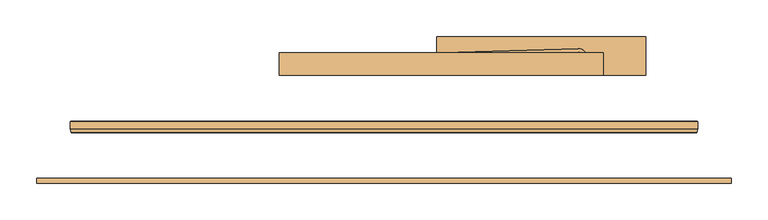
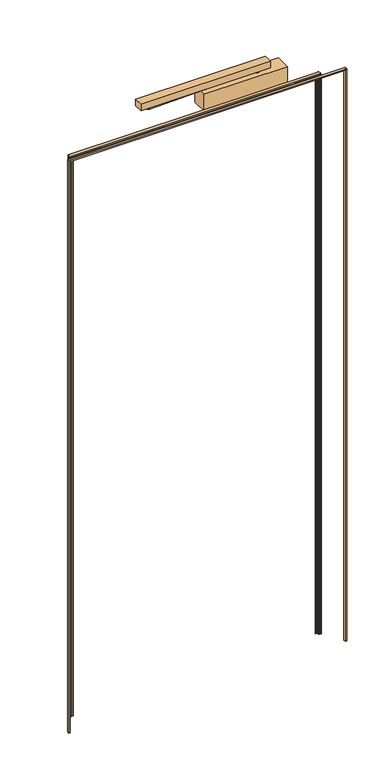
"""IFC4 building model written with IfcOpenShell, lengths in millimetres: door geometry."""

from ifc_helpers import new_model, si_unit, point, frame, frame_2d, origin, place, context, project, spatial, polyline, circle_curve, ellipse_curve, trimmed, segment, composite_curve, outline, extrude, source, transform, mapped, element, save
from ifc_brep_helpers import plane_surface, cylinder_surface, revolved_surface, advanced_brep


def door_c648f8eb(model_context):
    return source(origin(), model_context, "Body", "SolidModel", [
        extrude(outline(composite_curve([segment(polyline([(-110.2924281, 163.4957234), (265.7075719, 174.4957234)]), True, "CONTINUOUS"), segment(trimmed(circle_curve(frame_2d((266.0, 164.5)), 10.0), [point((265.7075719, 174.4957234))], [point((266.2924281, 154.5042766))], False, "CARTESIAN"), True, "CONTINUOUS"), segment(polyline([(266.2924281, 154.5042766), (-109.7075719, 143.5042766)]), True, "CONTINUOUS"), segment(trimmed(circle_curve(frame_2d((-110.0, 153.5)), 10.0), [point((-109.7075719, 143.5042766))], [point((-110.2924281, 163.4957234))], False, "CARTESIAN"), True, "CONTINUOUS")], self_intersect=False)), frame((0.0, 0.0, 2027.0), z_axis=(0.0, 0.0, 1.0), x_axis=(1.0, 0.0, 0.0)), (0.0, 0.0, 1.0), 5.0),
        advanced_brep(
        [(-120.0, 153.5, 2036.0), (-100.0, 153.5, 2036.0), (-110.0, 153.5, 2036.0), (-120.0, 153.5, 2032.0), (-100.0, 153.5, 2032.0), (-110.0, 153.5, 2032.0)],
        [
            (0, 1, circle_curve(frame((-110.0, 153.5, 2036.0), z_axis=(0.0, 0.0, 1.0), x_axis=(1.0, 0.0, 0.0)), 10.0)),
            (1, 2),
            (2, 0),
            (1, 0, circle_curve(frame((-110.0, 153.5, 2036.0), z_axis=(0.0, 0.0, 1.0), x_axis=(1.0, 0.0, 0.0)), 10.0)),
            (3, 4, circle_curve(frame((-110.0, 153.5, 2032.0), z_axis=(0.0, 0.0, 1.0), x_axis=(1.0, 0.0, 0.0)), 10.0)),
            (4, 1),
            (0, 3),
            (4, 3, circle_curve(frame((-110.0, 153.5, 2032.0), z_axis=(0.0, 0.0, 1.0), x_axis=(1.0, 0.0, 0.0)), 10.0)),
            (5, 4),
            (3, 5),
        ],
        [
            plane_surface(frame((-110.0, 153.5, 2036.0), z_axis=(0.0, 0.0, 1.0), x_axis=(1.0, 0.0, 0.0))),
            cylinder_surface(frame((-110.0, 153.5, 2054.0), z_axis=(0.0, 0.0, -1.0), x_axis=(1.0, 0.0, 0.0)), 10.0),
            plane_surface(frame((-110.0, 153.5, 2032.0), z_axis=(0.0, 0.0, -1.0), x_axis=(1.0, 0.0, 0.0))),
        ],
        [
            (0, [[1, 2, 3]]),
            (0, [[4, -3, -2]]),
            (1, [[5, 6, -1, 7]]),
            (1, [[8, -7, -4, -6]]),
            (2, [[9, -5, 10]]),
            (2, [[-10, -8, -9]]),
        ],
    ),
        advanced_brep(
        [(-115.0, 153.5, 2027.0), (-105.0, 153.5, 2027.0), (-110.0, 153.5, 2027.0), (-115.0, 153.5, 2025.0), (-105.0, 153.5, 2025.0), (-110.0, 153.5, 2025.0)],
        [
            (0, 1, circle_curve(frame((-110.0, 153.5, 2027.0), z_axis=(0.0, 0.0, 1.0), x_axis=(1.0, 0.0, 0.0)), 5.0)),
            (1, 2),
            (2, 0),
            (1, 0, circle_curve(frame((-110.0, 153.5, 2027.0), z_axis=(0.0, 0.0, 1.0), x_axis=(1.0, 0.0, 0.0)), 5.0)),
            (3, 4, circle_curve(frame((-110.0, 153.5, 2025.0), z_axis=(0.0, 0.0, 1.0), x_axis=(1.0, 0.0, 0.0)), 5.0)),
            (4, 1),
            (0, 3),
            (4, 3, circle_curve(frame((-110.0, 153.5, 2025.0), z_axis=(0.0, 0.0, 1.0), x_axis=(1.0, 0.0, 0.0)), 5.0)),
            (5, 4),
            (3, 5),
        ],
        [
            plane_surface(frame((-110.0, 153.5, 2027.0), z_axis=(0.0, 0.0, 1.0), x_axis=(1.0, 0.0, 0.0))),
            cylinder_surface(frame((-110.0, 153.5, 2054.0), z_axis=(0.0, 0.0, -1.0), x_axis=(1.0, 0.0, 0.0)), 5.0),
            plane_surface(frame((-110.0, 153.5, 2025.0), z_axis=(0.0, 0.0, -1.0), x_axis=(1.0, 0.0, 0.0))),
        ],
        [
            (0, [[1, 2, 3]]),
            (0, [[4, -3, -2]]),
            (1, [[5, 6, -1, 7]]),
            (1, [[8, -7, -4, -6]]),
            (2, [[9, -5, 10]]),
            (2, [[-10, -8, -9]]),
        ],
    ),
        advanced_brep(
        [(266.0, 164.5, 2032.0), (271.0, 164.5, 2032.0), (261.0, 164.5, 2032.0), (261.0, 164.5, 2034.0), (271.0, 164.5, 2034.0), (266.0, 164.5, 2034.0)],
        [
            (0, 1),
            (1, 2, circle_curve(frame((266.0, 164.5, 2032.0), z_axis=(0.0, 0.0, -1.0), x_axis=(1.0, 0.0, 0.0)), 5.0)),
            (2, 0),
            (2, 1, circle_curve(frame((266.0, 164.5, 2032.0), z_axis=(0.0, 0.0, -1.0), x_axis=(1.0, 0.0, 0.0)), 5.0)),
            (3, 4, circle_curve(frame((266.0, 164.5, 2034.0), z_axis=(0.0, 0.0, 1.0), x_axis=(1.0, 0.0, 0.0)), 5.0)),
            (4, 5),
            (5, 3),
            (4, 3, circle_curve(frame((266.0, 164.5, 2034.0), z_axis=(0.0, 0.0, 1.0), x_axis=(1.0, 0.0, 0.0)), 5.0)),
            (1, 4),
            (3, 2),
        ],
        [
            plane_surface(frame((266.0, 164.5, 2032.0), z_axis=(0.0, 0.0, -1.0), x_axis=(1.0, 0.0, 0.0))),
            plane_surface(frame((266.0, 164.5, 2034.0), z_axis=(0.0, 0.0, 1.0), x_axis=(1.0, 0.0, 0.0))),
            cylinder_surface(frame((266.0, 164.5, 2047.8284376), z_axis=(0.0, 0.0, -1.0), x_axis=(1.0, 0.0, 0.0)), 5.0),
        ],
        [
            (0, [[1, 2, 3]]),
            (0, [[-3, 4, -1]]),
            (1, [[5, 6, 7]]),
            (1, [[8, -7, -6]]),
            (2, [[-2, 9, -5, 10]]),
            (2, [[-4, -10, -8, -9]]),
        ],
    ),
        advanced_brep(
        [(256.0, 164.5, 2020.0), (276.0, 164.5, 2020.0), (276.0, 164.5, 2027.0), (256.0, 164.5, 2027.0), (266.0, 164.5, 2020.0), (266.0, 164.5, 2027.0)],
        [
            (0, 1, circle_curve(frame((266.0, 164.5, 2020.0), z_axis=(0.0, 0.0, 1.0), x_axis=(1.0, 0.0, 0.0)), 10.0)),
            (1, 2),
            (2, 3, circle_curve(frame((266.0, 164.5, 2027.0), z_axis=(0.0, 0.0, -1.0), x_axis=(1.0, 0.0, 0.0)), 10.0)),
            (3, 0),
            (1, 0, circle_curve(frame((266.0, 164.5, 2020.0), z_axis=(0.0, 0.0, 1.0), x_axis=(1.0, 0.0, 0.0)), 10.0)),
            (3, 2, circle_curve(frame((266.0, 164.5, 2027.0), z_axis=(0.0, 0.0, -1.0), x_axis=(1.0, 0.0, 0.0)), 10.0)),
            (4, 1),
            (0, 4),
            (2, 5),
            (5, 3),
        ],
        [
            cylinder_surface(frame((266.0, 164.5, 2047.8284376), z_axis=(0.0, 0.0, -1.0), x_axis=(1.0, 0.0, 0.0)), 10.0),
            plane_surface(frame((266.0, 164.5, 2020.0), z_axis=(0.0, 0.0, -1.0), x_axis=(1.0, 0.0, 0.0))),
            plane_surface(frame((266.0, 164.5, 2027.0), z_axis=(0.0, 0.0, 1.0), x_axis=(1.0, 0.0, 0.0))),
        ],
        [
            (0, [[1, 2, 3, 4]]),
            (0, [[5, -4, 6, -2]]),
            (1, [[7, -1, 8]]),
            (1, [[-8, -5, -7]]),
            (2, [[-3, 9, 10]]),
            (2, [[-6, -10, -9]]),
        ],
    ),
        extrude(outline(polyline([(72.0, 191.0), (357.0, 191.0), (357.0, 138.0), (72.0, 138.0), (72.0, 191.0)])), frame((0.0, 0.0, 1960.0), z_axis=(0.0, 0.0, 1.0), x_axis=(1.0, 0.0, 0.0)), (0.0, 0.0, 1.0), 60.0),
        extrude(outline(polyline([(-143.0, 169.0), (299.0, 169.0), (299.0, 138.0), (-143.0, 138.0), (-143.0, 169.0)])), frame((0.0, 0.0, 2036.0), z_axis=(0.0, 0.0, 1.0), x_axis=(1.0, 0.0, 0.0)), (0.0, 0.0, 1.0), 23.0),
        advanced_brep(
        [(-417.5333333, 70.1996732, 0.0), (-418.4, 67.990098, 0.0), (-418.4, 61.80189, 0.0), (-419.0235102, 61.4701624, 0.0), (-423.7571616, 62.7993824, 0.0), (-425.9513805, 60.3111942, 0.0), (-426.6913103, 60.1883555, 0.0), (-428.0, 65.3343682, 0.0), (-428.0, 74.5479523, 0.0), (-426.9858543, 75.5478522, 0.0), (-421.2510105, 74.9191862, 0.0), (-414.8397079, 72.8273335, 0.0), (-413.3594274, 69.4757259, 0.0), (-413.8666667, 70.1996732, 0.0), (-417.5333333, 70.1996732, 2004.5333333), (-418.4, 67.990098, 2005.4), (-418.4, 61.80189, 2005.4), (-419.0235102, 61.4701624, 2006.0235102), (-423.7571616, 62.7993824, 2010.7571616), (-425.9513805, 60.3111942, 2012.9513805), (-426.6913103, 60.1883555, 2013.6913103), (-428.0, 65.3343682, 2015.0), (-428.0, 74.5479523, 2015.0), (-426.9858543, 75.5478522, 2013.9858543), (-421.2510105, 74.9191862, 2008.2510105), (-414.8397079, 72.8273335, 2001.8397079), (-413.3594274, 69.4757259, 2000.3594274), (-413.8666667, 70.1996732, 2000.8666667), (417.5333333, 70.1996732, 0.0), (413.8666667, 70.1996732, 0.0), (413.3594274, 69.4757259, 0.0), (414.8397079, 72.8273335, 0.0), (421.2510105, 74.9191862, 0.0), (426.9858543, 75.5478522, 0.0), (428.0, 74.5479523, 0.0), (428.0, 65.3343682, 0.0), (426.6913103, 60.1883555, 0.0), (425.9513805, 60.3111942, 0.0), (423.7571616, 62.7993824, 0.0), (419.0235102, 61.4701624, 0.0), (418.4, 61.80189, 0.0), (418.4, 67.990098, 0.0), (417.5333333, 70.1996732, 2004.5333333), (413.8666667, 70.1996732, 2000.8666667), (413.3594274, 69.4757259, 2000.3594274), (414.8397079, 72.8273335, 2001.8397079), (421.2510105, 74.9191862, 2008.2510105), (426.9858543, 75.5478522, 2013.9858543), (428.0, 74.5479523, 2015.0), (428.0, 65.3343682, 2015.0), (426.6913103, 60.1883555, 2013.6913103), (425.9513805, 60.3111942, 2012.9513805), (423.7571616, 62.7993824, 2010.7571616), (419.0235102, 61.4701624, 2006.0235102), (418.4, 61.80189, 2005.4), (418.4, 67.990098, 2005.4)],
        [
            (0, 1, circle_curve(frame((-415.15, 67.990098, 0.0), z_axis=(0.0, 0.0, 1.0), x_axis=(-1.0, 0.0, 0.0)), 3.25)),
            (1, 2),
            (2, 3, circle_curve(frame((-418.8, 61.80189, 0.0), z_axis=(0.0, 0.0, -1.0), x_axis=(-1.0, 0.0, 0.0)), 0.4)),
            (3, 4, circle_curve(frame((-423.4015438, 54.9724089, 0.0), z_axis=(0.0, 0.0, 1.0), x_axis=(-1.0, 0.0, 0.0)), 7.8350481)),
            (4, 5, circle_curve(frame((-423.6524844, 60.4954879, 0.0), z_axis=(0.0, 0.0, 1.0), x_axis=(-1.0, 0.0, 0.0)), 2.3062713)),
            (5, 6, circle_curve(frame((-426.3265489, 60.2811184, 0.0), z_axis=(0.0, 0.0, -1.0), x_axis=(-1.0, 0.0, 0.0)), 0.376372)),
            (6, 7),
            (7, 8),
            (8, 9, circle_curve(frame((-427.0, 74.5479523, 0.0), z_axis=(0.0, 0.0, -1.0), x_axis=(-1.0, 0.0, 0.0)), 1.0)),
            (9, 10, circle_curve(frame((-427.4158432, 45.1537382, 0.0), z_axis=(0.0, 0.0, -1.0), x_axis=(-1.0, 0.0, 0.0)), 30.3971554)),
            (10, 11, circle_curve(frame((-427.4158432, 45.1537382, 0.0), z_axis=(0.0, 0.0, -1.0), x_axis=(-1.0, 0.0, 0.0)), 30.3971554)),
            (11, 12, circle_curve(frame((-415.9783656, 70.3217345, 0.0), z_axis=(0.0, 0.0, -1.0), x_axis=(-1.0, 0.0, 0.0)), 2.7521932)),
            (12, 13, circle_curve(frame((-416.25, 67.990098, 0.0), z_axis=(0.0, 0.0, 1.0), x_axis=(-1.0, 0.0, 0.0)), 3.25)),
            (13, 0, circle_curve(frame((-415.7, 68.5, 0.0), z_axis=(0.0, 0.0, 1.0), x_axis=(-1.0, 0.0, 0.0)), 2.5)),
            (0, 14),
            (14, 15, ellipse_curve(frame((-415.15, 67.990098, 2002.15), z_axis=(0.7071067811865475, 0.0, 0.7071067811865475), x_axis=(-0.7071067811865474, 0.0, 0.7071067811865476)), 4.5961941, 3.25)),
            (15, 1),
            (15, 16),
            (16, 2),
            (16, 17, ellipse_curve(frame((-418.8, 61.80189, 2005.8), z_axis=(-0.7071067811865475, 0.0, -0.7071067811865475), x_axis=(0.7071067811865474, 0.0, -0.7071067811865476)), 0.5656854, 0.4)),
            (17, 3),
            (17, 18, ellipse_curve(frame((-423.4015438, 54.9724089, 2010.4015438), z_axis=(0.7071067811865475, 0.0, 0.7071067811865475), x_axis=(-0.7071067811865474, 0.0, 0.7071067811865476)), 11.0804313, 7.8350481)),
            (18, 4),
            (18, 19, ellipse_curve(frame((-423.6524844, 60.4954879, 2010.6524844), z_axis=(0.7071067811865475, 0.0, 0.7071067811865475), x_axis=(-0.7071067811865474, 0.0, 0.7071067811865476)), 3.2615602, 2.3062713)),
            (19, 5),
            (19, 20, ellipse_curve(frame((-426.3265489, 60.2811184, 2013.3265489), z_axis=(-0.7071067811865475, 0.0, -0.7071067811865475), x_axis=(0.7071067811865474, 0.0, -0.7071067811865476)), 0.5322704, 0.376372)),
            (20, 6),
            (20, 21),
            (21, 7),
            (21, 22),
            (22, 8),
            (22, 23, ellipse_curve(frame((-427.0, 74.5479523, 2014.0), z_axis=(-0.7071067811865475, 0.0, -0.7071067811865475), x_axis=(0.7071067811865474, 0.0, -0.7071067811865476)), 1.4142136, 1.0)),
            (23, 9),
            (23, 24, ellipse_curve(frame((-427.4158432, 45.1537382, 2014.4158432), z_axis=(-0.7071067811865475, 0.0, -0.7071067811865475), x_axis=(0.7071067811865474, 0.0, -0.7071067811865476)), 42.9880694, 30.3971554)),
            (24, 10),
            (24, 25, ellipse_curve(frame((-427.4158432, 45.1537382, 2014.4158432), z_axis=(-0.7071067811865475, 0.0, -0.7071067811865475), x_axis=(0.7071067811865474, 0.0, -0.7071067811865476)), 42.9880694, 30.3971554)),
            (25, 11),
            (25, 26, ellipse_curve(frame((-415.9783656, 70.3217345, 2002.9783656), z_axis=(-0.7071067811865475, 0.0, -0.7071067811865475), x_axis=(0.7071067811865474, 0.0, -0.7071067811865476)), 3.892189, 2.7521932)),
            (26, 12),
            (26, 27, ellipse_curve(frame((-416.25, 67.990098, 2003.25), z_axis=(0.7071067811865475, 0.0, 0.7071067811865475), x_axis=(-0.7071067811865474, 0.0, 0.7071067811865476)), 4.5961941, 3.25)),
            (27, 13),
            (27, 14, ellipse_curve(frame((-415.7, 68.5, 2002.7), z_axis=(0.7071067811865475, 0.0, 0.7071067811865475), x_axis=(-0.7071067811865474, 0.0, 0.7071067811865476)), 3.5355339, 2.5)),
            (28, 29, circle_curve(frame((415.7, 68.5, 0.0), z_axis=(0.0, 0.0, 1.0), x_axis=(1.0, 0.0, 0.0)), 2.5)),
            (29, 30, circle_curve(frame((416.25, 67.990098, 0.0), z_axis=(0.0, 0.0, 1.0), x_axis=(1.0, 0.0, 0.0)), 3.25)),
            (30, 31, circle_curve(frame((415.9783656, 70.3217345, 0.0), z_axis=(0.0, 0.0, -1.0), x_axis=(1.0, 0.0, 0.0)), 2.7521932)),
            (31, 32, circle_curve(frame((427.4158432, 45.1537382, 0.0), z_axis=(0.0, 0.0, -1.0), x_axis=(1.0, 0.0, 0.0)), 30.3971554)),
            (32, 33, circle_curve(frame((427.4158432, 45.1537382, 0.0), z_axis=(0.0, 0.0, -1.0), x_axis=(1.0, 0.0, 0.0)), 30.3971554)),
            (33, 34, circle_curve(frame((427.0, 74.5479523, 0.0), z_axis=(0.0, 0.0, -1.0), x_axis=(1.0, 0.0, 0.0)), 1.0)),
            (34, 35),
            (35, 36),
            (36, 37, circle_curve(frame((426.3265489, 60.2811184, 0.0), z_axis=(0.0, 0.0, -1.0), x_axis=(1.0, 0.0, 0.0)), 0.376372)),
            (37, 38, circle_curve(frame((423.6524844, 60.4954879, 0.0), z_axis=(0.0, 0.0, 1.0), x_axis=(1.0, 0.0, 0.0)), 2.3062713)),
            (38, 39, circle_curve(frame((423.4015438, 54.9724089, 0.0), z_axis=(0.0, 0.0, 1.0), x_axis=(1.0, 0.0, 0.0)), 7.8350481)),
            (39, 40, circle_curve(frame((418.8, 61.80189, 0.0), z_axis=(0.0, 0.0, -1.0), x_axis=(1.0, 0.0, 0.0)), 0.4)),
            (40, 41),
            (41, 28, circle_curve(frame((415.15, 67.990098, 0.0), z_axis=(0.0, 0.0, 1.0), x_axis=(1.0, 0.0, 0.0)), 3.25)),
            (42, 43, ellipse_curve(frame((415.7, 68.5, 2002.7), z_axis=(-0.7071067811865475, 0.0, 0.7071067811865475), x_axis=(-0.7071067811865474, 0.0, -0.7071067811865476)), 3.5355339, 2.5)),
            (43, 29),
            (28, 42),
            (43, 44, ellipse_curve(frame((416.25, 67.990098, 2003.25), z_axis=(-0.7071067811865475, 0.0, 0.7071067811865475), x_axis=(-0.7071067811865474, 0.0, -0.7071067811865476)), 4.5961941, 3.25)),
            (44, 30),
            (44, 45, ellipse_curve(frame((415.9783656, 70.3217345, 2002.9783656), z_axis=(0.7071067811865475, 0.0, -0.7071067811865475), x_axis=(0.7071067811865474, 0.0, 0.7071067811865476)), 3.892189, 2.7521932)),
            (45, 31),
            (45, 46, ellipse_curve(frame((427.4158432, 45.1537382, 2014.4158432), z_axis=(0.7071067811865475, 0.0, -0.7071067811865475), x_axis=(0.7071067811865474, 0.0, 0.7071067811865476)), 42.9880694, 30.3971554)),
            (46, 32),
            (46, 47, ellipse_curve(frame((427.4158432, 45.1537382, 2014.4158432), z_axis=(0.7071067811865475, 0.0, -0.7071067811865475), x_axis=(0.7071067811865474, 0.0, 0.7071067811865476)), 42.9880694, 30.3971554)),
            (47, 33),
            (47, 48, ellipse_curve(frame((427.0, 74.5479523, 2014.0), z_axis=(0.7071067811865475, 0.0, -0.7071067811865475), x_axis=(0.7071067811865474, 0.0, 0.7071067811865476)), 1.4142136, 1.0)),
            (48, 34),
            (48, 49),
            (49, 35),
            (49, 50),
            (50, 36),
            (50, 51, ellipse_curve(frame((426.3265489, 60.2811184, 2013.3265489), z_axis=(0.7071067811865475, 0.0, -0.7071067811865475), x_axis=(0.7071067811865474, 0.0, 0.7071067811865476)), 0.5322704, 0.376372)),
            (51, 37),
            (51, 52, ellipse_curve(frame((423.6524844, 60.4954879, 2010.6524844), z_axis=(-0.7071067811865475, 0.0, 0.7071067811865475), x_axis=(-0.7071067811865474, 0.0, -0.7071067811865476)), 3.2615602, 2.3062713)),
            (52, 38),
            (52, 53, ellipse_curve(frame((423.4015438, 54.9724089, 2010.4015438), z_axis=(-0.7071067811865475, 0.0, 0.7071067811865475), x_axis=(-0.7071067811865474, 0.0, -0.7071067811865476)), 11.0804313, 7.8350481)),
            (53, 39),
            (53, 54, ellipse_curve(frame((418.8, 61.80189, 2005.8), z_axis=(0.7071067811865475, 0.0, -0.7071067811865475), x_axis=(0.7071067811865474, 0.0, 0.7071067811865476)), 0.5656854, 0.4)),
            (54, 40),
            (54, 55),
            (55, 41),
            (55, 42, ellipse_curve(frame((415.15, 67.990098, 2002.15), z_axis=(-0.7071067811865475, 0.0, 0.7071067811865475), x_axis=(-0.7071067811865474, 0.0, -0.7071067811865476)), 4.5961941, 3.25)),
            (26, 44),
            (43, 27),
            (42, 14),
            (55, 15),
            (54, 16),
            (21, 49),
            (48, 22),
            (53, 17),
            (52, 18),
            (51, 19),
            (50, 20),
            (47, 23),
            (46, 24),
            (45, 25),
        ],
        [
            plane_surface(frame((-474.0, 125.0, 0.0), z_axis=(0.0, 0.0, -1.0), x_axis=(0.0, 1.0, 0.0))),
            revolved_surface(polyline([(-418.4, 67.990098, 2005.4000000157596), (-418.4, 67.990098, 0.0)]), (-415.15, 67.990098, 0.0), (0.0, 0.0, 1.0)),
            plane_surface(frame((-418.4, 67.990098, 0.0), z_axis=(1.0, 0.0, 0.0), x_axis=(0.0, 0.0, 1.0))),
            cylinder_surface(frame((-418.8, 61.80189, 0.0), z_axis=(0.0, 0.0, -1.0), x_axis=(-1.0, 0.0, 0.0)), 0.4),
            revolved_surface(polyline([(-431.2365919, 54.9724089, 2018.2365919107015), (-431.2365919, 54.9724089, 0.0)]), (-423.4015438, 54.9724089, 0.0), (0.0, 0.0, 1.0)),
            revolved_surface(polyline([(-425.9587557, 60.4954879, 2012.958755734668), (-425.9587557, 60.4954879, 0.0)]), (-423.6524844, 60.4954879, 0.0), (0.0, 0.0, 1.0)),
            cylinder_surface(frame((-426.3265489, 60.2811184, 0.0), z_axis=(0.0, 0.0, -1.0), x_axis=(-1.0, 0.0, 0.0)), 0.376372),
            plane_surface(frame((-426.6913103, 60.1883555, 0.0), z_axis=(-0.9691513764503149, -0.2464662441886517, 0.0), x_axis=(0.0, 0.0, 1.0))),
            plane_surface(frame((-428.0, 65.3343682, 0.0), z_axis=(-1.0, 0.0, 0.0), x_axis=(0.0, 0.0, 1.0))),
            cylinder_surface(frame((-427.0, 74.5479523, 0.0), z_axis=(0.0, 0.0, -1.0), x_axis=(-1.0, 0.0, 0.0)), 1.0),
            cylinder_surface(frame((-427.4158432, 45.1537382, 0.0), z_axis=(0.0, 0.0, -1.0), x_axis=(-1.0, 0.0, 0.0)), 30.3971554),
            cylinder_surface(frame((-415.9783656, 70.3217345, 0.0), z_axis=(0.0, 0.0, -1.0), x_axis=(-1.0, 0.0, 0.0)), 2.7521932),
            revolved_surface(polyline([(-419.5, 67.990098, 2006.5000000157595), (-419.5, 67.990098, 0.0)]), (-416.25, 67.990098, 0.0), (0.0, 0.0, 1.0)),
            revolved_surface(polyline([(-418.2, 68.5, 2005.199999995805), (-418.2, 68.5, 0.0)]), (-415.7, 68.5, 0.0), (0.0, 0.0, 1.0)),
            plane_surface(frame((474.0, 125.0, 0.0), z_axis=(0.0, 0.0, -1.0), x_axis=(0.0, 1.0, 0.0))),
            revolved_surface(polyline([(418.2, 68.5, 0.0), (418.2, 68.5, 2005.199999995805)]), (415.7, 68.5, 2061.0), (0.0, 0.0, -1.0)),
            revolved_surface(polyline([(419.5, 67.990098, 0.0), (419.5, 67.990098, 2006.5000000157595)]), (416.25, 67.990098, 2061.0), (0.0, 0.0, -1.0)),
            cylinder_surface(frame((415.9783656, 70.3217345, 2061.0), z_axis=(0.0, 0.0, 1.0), x_axis=(1.0, 0.0, 0.0)), 2.7521932),
            cylinder_surface(frame((427.4158432, 45.1537382, 2061.0), z_axis=(0.0, 0.0, 1.0), x_axis=(1.0, 0.0, 0.0)), 30.3971554),
            cylinder_surface(frame((427.0, 74.5479523, 2061.0), z_axis=(0.0, 0.0, 1.0), x_axis=(1.0, 0.0, 0.0)), 1.0),
            plane_surface(frame((428.0, 65.3343682, 2015.0), z_axis=(1.0, 0.0, 0.0), x_axis=(0.0, 0.0, -1.0))),
            plane_surface(frame((426.6913103, 60.1883555, 2013.6913103), z_axis=(0.9691513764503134, -0.2464662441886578, 0.0), x_axis=(0.0, 0.0, -1.0))),
            cylinder_surface(frame((426.3265489, 60.2811184, 2061.0), z_axis=(0.0, 0.0, 1.0), x_axis=(1.0, 0.0, 0.0)), 0.376372),
            revolved_surface(polyline([(425.9587557, 60.4954879, 0.0), (425.9587557, 60.4954879, 2012.958755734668)]), (423.6524844, 60.4954879, 2061.0), (0.0, 0.0, -1.0)),
            revolved_surface(polyline([(431.2365919, 54.9724089, 0.0), (431.2365919, 54.9724089, 2018.2365919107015)]), (423.4015438, 54.9724089, 2061.0), (0.0, 0.0, -1.0)),
            cylinder_surface(frame((418.8, 61.80189, 2061.0), z_axis=(0.0, 0.0, 1.0), x_axis=(1.0, 0.0, 0.0)), 0.4),
            plane_surface(frame((418.4, 67.990098, 2005.4), z_axis=(-1.0, 0.0, 0.0), x_axis=(0.0, 0.0, -1.0))),
            revolved_surface(polyline([(418.4, 67.990098, 0.0), (418.4, 67.990098, 2005.4000000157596)]), (415.15, 67.990098, 2061.0), (0.0, 0.0, -1.0)),
            revolved_surface(polyline([(419.5000000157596, 67.990098, 2006.5), (-419.5000000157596, 67.990098, 2006.5)]), (-474.0, 67.990098, 2003.25), (1.0, 0.0, 0.0)),
            revolved_surface(polyline([(418.199999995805, 68.5, 2005.2), (-418.1999999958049, 68.5, 2005.2)]), (-474.0, 68.5, 2002.7), (1.0, 0.0, 0.0)),
            revolved_surface(polyline([(418.4000000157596, 67.990098, 2005.4), (-418.4000000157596, 67.990098, 2005.4)]), (-474.0, 67.990098, 2002.15), (1.0, 0.0, 0.0)),
            plane_surface(frame((-418.4, 67.990098, 2005.4), z_axis=(0.0, 0.0, -1.0), x_axis=(1.0, 0.0, 0.0))),
            plane_surface(frame((-428.0, 65.3343682, 2015.0), z_axis=(0.0, 0.0, 1.0), x_axis=(1.0, 0.0, 0.0))),
            cylinder_surface(frame((-474.0, 61.80189, 2005.8), z_axis=(-1.0, 0.0, 0.0), x_axis=(0.0, 0.0, 1.0)), 0.4),
            revolved_surface(polyline([(431.2365919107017, 54.9724089, 2018.2365919), (-431.2365919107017, 54.9724089, 2018.2365919)]), (-474.0, 54.9724089, 2010.4015438), (1.0, 0.0, 0.0)),
            revolved_surface(polyline([(425.9587557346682, 60.4954879, 2012.9587557), (-425.95875573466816, 60.4954879, 2012.9587557)]), (-474.0, 60.4954879, 2010.6524844), (1.0, 0.0, 0.0)),
            cylinder_surface(frame((-474.0, 60.2811184, 2013.3265489), z_axis=(-1.0, 0.0, 0.0), x_axis=(0.0, 0.0, 1.0)), 0.376372),
            plane_surface(frame((-426.6913103, 60.1883555, 2013.6913103), z_axis=(0.0, -0.24646624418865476, 0.9691513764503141), x_axis=(1.0, 0.0, 0.0))),
            cylinder_surface(frame((-474.0, 74.5479523, 2014.0), z_axis=(-1.0, 0.0, 0.0), x_axis=(0.0, 0.0, 1.0)), 1.0),
            cylinder_surface(frame((-474.0, 45.1537382, 2014.4158432), z_axis=(-1.0, 0.0, 0.0), x_axis=(0.0, 0.0, 1.0)), 30.3971554),
            cylinder_surface(frame((-474.0, 70.3217345, 2002.9783656), z_axis=(-1.0, 0.0, 0.0), x_axis=(0.0, 0.0, 1.0)), 2.7521932),
        ],
        [
            (0, [[1, 2, 3, 4, 5, 6, 7, 8, 9, 10, 11, 12, 13, 14]]),
            (1, [[-1, 15, 16, 17]]),
            (2, [[-2, -17, 18, 19]]),
            (3, [[-3, -19, 20, 21]]),
            (4, [[-4, -21, 22, 23]]),
            (5, [[-5, -23, 24, 25]]),
            (6, [[-6, -25, 26, 27]]),
            (7, [[-7, -27, 28, 29]]),
            (8, [[-8, -29, 30, 31]]),
            (9, [[-9, -31, 32, 33]]),
            (10, [[-10, -33, 34, 35]]),
            (10, [[-11, -35, 36, 37]]),
            (11, [[-12, -37, 38, 39]]),
            (12, [[-13, -39, 40, 41]]),
            (13, [[-14, -41, 42, -15]]),
            (14, [[43, 44, 45, 46, 47, 48, 49, 50, 51, 52, 53, 54, 55, 56]]),
            (15, [[57, 58, -43, 59]]),
            (16, [[60, 61, -44, -58]]),
            (17, [[62, 63, -45, -61]]),
            (18, [[64, 65, -46, -63]]),
            (18, [[66, 67, -47, -65]]),
            (19, [[68, 69, -48, -67]]),
            (20, [[70, 71, -49, -69]]),
            (21, [[72, 73, -50, -71]]),
            (22, [[74, 75, -51, -73]]),
            (23, [[76, 77, -52, -75]]),
            (24, [[78, 79, -53, -77]]),
            (25, [[80, 81, -54, -79]]),
            (26, [[82, 83, -55, -81]]),
            (27, [[84, -59, -56, -83]]),
            (28, [[-40, 85, -60, 86]]),
            (29, [[-42, -86, -57, 87]]),
            (30, [[-16, -87, -84, 88]]),
            (31, [[-18, -88, -82, 89]]),
            (32, [[-30, 90, -70, 91]]),
            (33, [[-20, -89, -80, 92]]),
            (34, [[-22, -92, -78, 93]]),
            (35, [[-24, -93, -76, 94]]),
            (36, [[-26, -94, -74, 95]]),
            (37, [[-28, -95, -72, -90]]),
            (38, [[-32, -91, -68, 96]]),
            (39, [[-34, -96, -66, 97]]),
            (39, [[-36, -97, -64, 98]]),
            (40, [[-38, -98, -62, -85]]),
        ],
    ),
        advanced_brep(
        [(-474.0, -8.8, 0.0), (-474.0, -2.0, 0.0), (-469.0, -2.0, 0.0), (-469.0, -8.8, 0.0), (-474.0, -8.8, 2061.0), (-474.0, -2.0, 2061.0), (-469.0, -2.0, 2056.0), (-469.0, -8.8, 2056.0), (474.0, -8.8, 0.0), (469.0, -8.8, 0.0), (469.0, -2.0, 0.0), (474.0, -2.0, 0.0), (474.0, -8.8, 2061.0), (469.0, -8.8, 2056.0), (469.0, -2.0, 2056.0), (474.0, -2.0, 2061.0)],
        [
            (0, 1),
            (1, 2, circle_curve(frame((-471.5, 0.625, 0.0), z_axis=(0.0, 0.0, 1.0), x_axis=(-1.0, 0.0, 0.0)), 3.625)),
            (2, 3),
            (3, 0, circle_curve(frame((-471.5, -11.425, 0.0), z_axis=(0.0, 0.0, 1.0), x_axis=(-1.0, 0.0, 0.0)), 3.625)),
            (0, 4),
            (4, 5),
            (5, 1),
            (5, 6, ellipse_curve(frame((-471.5, 0.625, 2058.5), z_axis=(0.7071067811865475, 0.0, 0.7071067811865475), x_axis=(-0.7071067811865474, 0.0, 0.7071067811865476)), 5.1265242, 3.625)),
            (6, 2),
            (6, 7),
            (7, 3),
            (7, 4, ellipse_curve(frame((-471.5, -11.425, 2058.5), z_axis=(0.7071067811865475, 0.0, 0.7071067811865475), x_axis=(-0.7071067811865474, 0.0, 0.7071067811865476)), 5.1265242, 3.625)),
            (8, 9, circle_curve(frame((471.5, -11.425, 0.0), z_axis=(0.0, 0.0, 1.0), x_axis=(1.0, 0.0, 0.0)), 3.625)),
            (9, 10),
            (10, 11, circle_curve(frame((471.5, 0.625, 0.0), z_axis=(0.0, 0.0, 1.0), x_axis=(1.0, 0.0, 0.0)), 3.625)),
            (11, 8),
            (12, 13, ellipse_curve(frame((471.5, -11.425, 2058.5), z_axis=(-0.7071067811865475, 0.0, 0.7071067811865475), x_axis=(-0.7071067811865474, 0.0, -0.7071067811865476)), 5.1265242, 3.625)),
            (13, 9),
            (8, 12),
            (13, 14),
            (14, 10),
            (14, 15, ellipse_curve(frame((471.5, 0.625, 2058.5), z_axis=(-0.7071067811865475, 0.0, 0.7071067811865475), x_axis=(-0.7071067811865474, 0.0, -0.7071067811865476)), 5.1265242, 3.625)),
            (15, 11),
            (15, 12),
            (5, 15),
            (14, 6),
            (13, 7),
            (4, 12),
        ],
        [
            plane_surface(frame((-474.0, -2.0, 0.0), z_axis=(0.0, 0.0, -1.0), x_axis=(0.0, -1.0, 0.0))),
            plane_surface(frame((-474.0, -8.8, 0.0), z_axis=(-1.0, 0.0, 0.0), x_axis=(0.0, 0.0, 1.0))),
            revolved_surface(polyline([(-475.125, 0.625, 2062.125000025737), (-475.125, 0.625, 0.0)]), (-471.5, 0.625, 0.0), (0.0, 0.0, 1.0)),
            plane_surface(frame((-469.0, -2.0, 0.0), z_axis=(1.0, 0.0, 0.0), x_axis=(0.0, 0.0, 1.0))),
            revolved_surface(polyline([(-475.125, -11.425, 2062.125000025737), (-475.125, -11.425, 0.0)]), (-471.5, -11.425, 0.0), (0.0, 0.0, 1.0)),
            plane_surface(frame((474.0, -2.0, 0.0), z_axis=(0.0, 0.0, -1.0), x_axis=(0.0, -1.0, 0.0))),
            revolved_surface(polyline([(475.125, -11.425, 0.0), (475.125, -11.425, 2062.125000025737)]), (471.5, -11.425, 2061.0), (0.0, 0.0, -1.0)),
            plane_surface(frame((469.0, -2.0, 2056.0), z_axis=(-1.0, 0.0, 0.0), x_axis=(0.0, 0.0, -1.0))),
            revolved_surface(polyline([(475.125, 0.625, 0.0), (475.125, 0.625, 2062.125000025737)]), (471.5, 0.625, 2061.0), (0.0, 0.0, -1.0)),
            plane_surface(frame((474.0, -8.8, 2061.0), z_axis=(1.0, 0.0, 0.0), x_axis=(0.0, 0.0, -1.0))),
            revolved_surface(polyline([(475.125000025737, 0.625, 2062.125), (-475.12500002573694, 0.625, 2062.125)]), (-474.0, 0.625, 2058.5), (1.0, 0.0, 0.0)),
            plane_surface(frame((-469.0, -2.0, 2056.0), z_axis=(0.0, 0.0, -1.0), x_axis=(1.0, 0.0, 0.0))),
            plane_surface(frame((-474.0, -8.8, 2061.0), z_axis=(0.0, 0.0, 1.0), x_axis=(1.0, 0.0, 0.0))),
            revolved_surface(polyline([(475.125000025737, -11.425, 2062.125), (-475.12500002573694, -11.425, 2062.125)]), (-474.0, -11.425, 2058.5), (1.0, 0.0, 0.0)),
        ],
        [
            (0, [[1, 2, 3, 4]]),
            (1, [[-1, 5, 6, 7]]),
            (2, [[-2, -7, 8, 9]]),
            (3, [[-3, -9, 10, 11]]),
            (4, [[-4, -11, 12, -5]]),
            (5, [[13, 14, 15, 16]]),
            (6, [[17, 18, -13, 19]]),
            (7, [[20, 21, -14, -18]]),
            (8, [[22, 23, -15, -21]]),
            (9, [[24, -19, -16, -23]]),
            (10, [[-8, 25, -22, 26]]),
            (11, [[-10, -26, -20, 27]]),
            (12, [[-6, 28, -24, -25]]),
            (13, [[-12, -27, -17, -28]]),
        ],
    ),
    ])


if __name__ == "__main__":
    model = new_model("IFC4")
    model_context = context("Model", 3, world=origin())
    ifc_project = project(units=[si_unit("LENGTHUNIT", "METRE", prefix="MILLI")], contexts=[model_context])
    site = spatial("IfcSite", under=ifc_project)
    building = spatial("IfcBuilding", under=site)
    placement = place(None, origin())
    door_shape = door_c648f8eb(model_context)
    element("IfcDoor", 1, at=placement, inside=building, context=model_context, shape_type="MappedRepresentation", body=[
        mapped(door_shape, transform((0.0, 0.0, 0.0), x_axis=(1.0, 0.0, 0.0), y_axis=(0.0, 1.0, 0.0), z_axis=(0.0, 0.0, 1.0))),
    ])
    save(model, "model.ifc")
